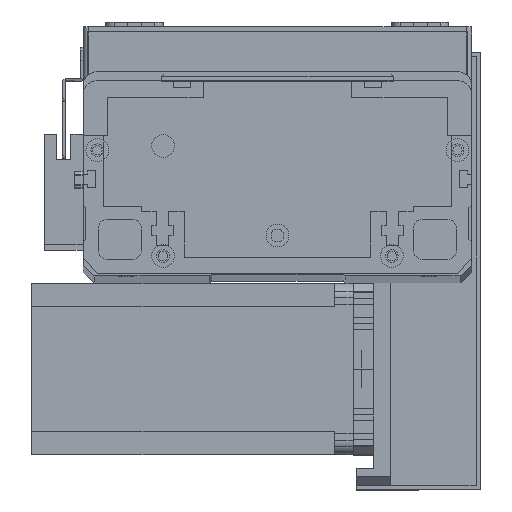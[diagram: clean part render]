
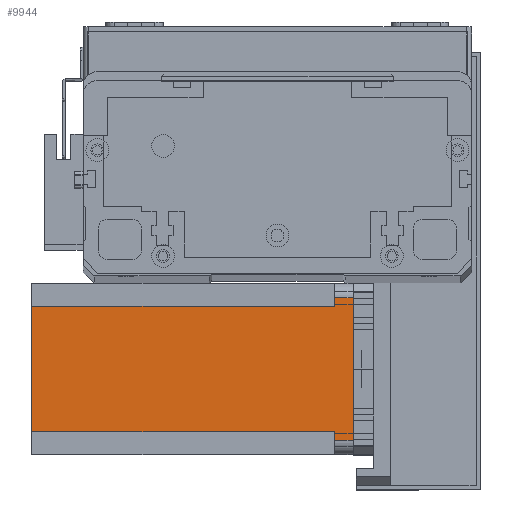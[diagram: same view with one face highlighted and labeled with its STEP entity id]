
A CAD part, top view. The second image highlights one B-rep face of the part: STEP entity #9944.
In plain terms, the highlighted planar face has unit normal (0, 0, 1) as drawn and (0, -1, 0) by its records, which use the part's own axes.
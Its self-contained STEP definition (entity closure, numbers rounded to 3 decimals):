
#287 = DIRECTION ( 'NONE',  ( 0., 0., -1. ) ) ;
#585 = VERTEX_POINT ( 'NONE', #13165 ) ;
#1012 = DIRECTION ( 'NONE',  ( 0., 0., -1. ) ) ;
#1233 = ORIENTED_EDGE ( 'NONE', *, *, #27402, .T. ) ;
#1429 = ORIENTED_EDGE ( 'NONE', *, *, #18594, .F. ) ;
#1554 = DIRECTION ( 'NONE',  ( 1., 0., 0. ) ) ;
#2809 = VERTEX_POINT ( 'NONE', #19334 ) ;
#3104 = VERTEX_POINT ( 'NONE', #5017 ) ;
#3784 = VERTEX_POINT ( 'NONE', #22956 ) ;
#3889 = CARTESIAN_POINT ( 'NONE',  ( 55., 0., -112.5 ) ) ;
#4113 = CARTESIAN_POINT ( 'NONE',  ( 5., 0., 0. ) ) ;
#4386 = EDGE_CURVE ( 'NONE', #2809, #585, #5131, .T. ) ;
#4604 = EDGE_CURVE ( 'NONE', #8849, #3784, #23014, .T. ) ;
#4765 = VECTOR ( 'NONE', #15236, 1000. ) ;
#5017 = CARTESIAN_POINT ( 'NONE',  ( 52., 0., -112.5 ) ) ;
#5131 = LINE ( 'NONE', #27424, #22658 ) ;
#5513 = CARTESIAN_POINT ( 'NONE',  ( 0., 0., -112.5 ) ) ;
#6268 = CARTESIAN_POINT ( 'NONE',  ( 0., 0., -112.5 ) ) ;
#7608 = VECTOR ( 'NONE', #18036, 1000. ) ;
#8635 = LINE ( 'NONE', #3889, #12554 ) ;
#8849 = VERTEX_POINT ( 'NONE', #27306 ) ;
#9056 = LINE ( 'NONE', #15731, #7608 ) ;
#9487 = CARTESIAN_POINT ( 'NONE',  ( 5., 0., -112.5 ) ) ;
#9944 = ADVANCED_FACE ( 'NONE', ( #20666 ), #12370, .T. ) ;
#10235 = CARTESIAN_POINT ( 'NONE',  ( 0., 0., 0. ) ) ;
#11862 = AXIS2_PLACEMENT_3D ( 'NONE', #5513, #14716, #1012 ) ;
#12370 = PLANE ( 'NONE',  #11862 ) ;
#12554 = VECTOR ( 'NONE', #24474, 1000. ) ;
#13112 = ORIENTED_EDGE ( 'NONE', *, *, #4386, .T. ) ;
#13165 = CARTESIAN_POINT ( 'NONE',  ( 55., 0., -6.5 ) ) ;
#13242 = VERTEX_POINT ( 'NONE', #4113 ) ;
#13532 = VECTOR ( 'NONE', #287, 1000. ) ;
#14380 = ORIENTED_EDGE ( 'NONE', *, *, #20722, .F. ) ;
#14716 = DIRECTION ( 'NONE',  ( 0., -1., 0. ) ) ;
#15051 = CARTESIAN_POINT ( 'NONE',  ( 8., 0., -112.5 ) ) ;
#15111 = VECTOR ( 'NONE', #26868, 1000. ) ;
#15236 = DIRECTION ( 'NONE',  ( 0., 0., 1. ) ) ;
#15731 = CARTESIAN_POINT ( 'NONE',  ( 8., 0., -6.5 ) ) ;
#15761 = CARTESIAN_POINT ( 'NONE',  ( 55., 0., 0. ) ) ;
#15902 = LINE ( 'NONE', #10235, #16643 ) ;
#16643 = VECTOR ( 'NONE', #21666, 1000. ) ;
#17691 = DIRECTION ( 'NONE',  ( 1., 0., 0. ) ) ;
#17700 = ORIENTED_EDGE ( 'NONE', *, *, #19510, .F. ) ;
#18036 = DIRECTION ( 'NONE',  ( -1., 0., 0. ) ) ;
#18594 = EDGE_CURVE ( 'NONE', #13242, #20809, #15902, .T. ) ;
#19334 = CARTESIAN_POINT ( 'NONE',  ( 52., 0., -6.5 ) ) ;
#19510 = EDGE_CURVE ( 'NONE', #3784, #24330, #9056, .T. ) ;
#20386 = ORIENTED_EDGE ( 'NONE', *, *, #20680, .T. ) ;
#20666 = FACE_OUTER_BOUND ( 'NONE', #28779, .T. ) ;
#20680 = EDGE_CURVE ( 'NONE', #585, #20809, #8635, .T. ) ;
#20722 = EDGE_CURVE ( 'NONE', #2809, #3104, #21199, .T. ) ;
#20809 = VERTEX_POINT ( 'NONE', #15761 ) ;
#21199 = LINE ( 'NONE', #24564, #15111 ) ;
#21666 = DIRECTION ( 'NONE',  ( 1., 0., 0. ) ) ;
#22200 = ORIENTED_EDGE ( 'NONE', *, *, #27749, .T. ) ;
#22631 = LINE ( 'NONE', #6268, #27990 ) ;
#22658 = VECTOR ( 'NONE', #1554, 1000. ) ;
#22956 = CARTESIAN_POINT ( 'NONE',  ( 8., 0., -6.5 ) ) ;
#23014 = LINE ( 'NONE', #15051, #4765 ) ;
#24330 = VERTEX_POINT ( 'NONE', #27803 ) ;
#24474 = DIRECTION ( 'NONE',  ( 0., 0., 1. ) ) ;
#24564 = CARTESIAN_POINT ( 'NONE',  ( 52., 0., -112.5 ) ) ;
#25264 = ORIENTED_EDGE ( 'NONE', *, *, #4604, .F. ) ;
#25703 = LINE ( 'NONE', #9487, #13532 ) ;
#26868 = DIRECTION ( 'NONE',  ( 0., 0., -1. ) ) ;
#27306 = CARTESIAN_POINT ( 'NONE',  ( 8., 0., -112.5 ) ) ;
#27402 = EDGE_CURVE ( 'NONE', #8849, #3104, #22631, .T. ) ;
#27424 = CARTESIAN_POINT ( 'NONE',  ( 52., 0., -6.5 ) ) ;
#27749 = EDGE_CURVE ( 'NONE', #13242, #24330, #25703, .T. ) ;
#27803 = CARTESIAN_POINT ( 'NONE',  ( 5., 0., -6.5 ) ) ;
#27990 = VECTOR ( 'NONE', #17691, 1000. ) ;
#28779 = EDGE_LOOP ( 'NONE', ( #13112, #20386, #1429, #22200, #17700, #25264, #1233, #14380 ) ) ;
